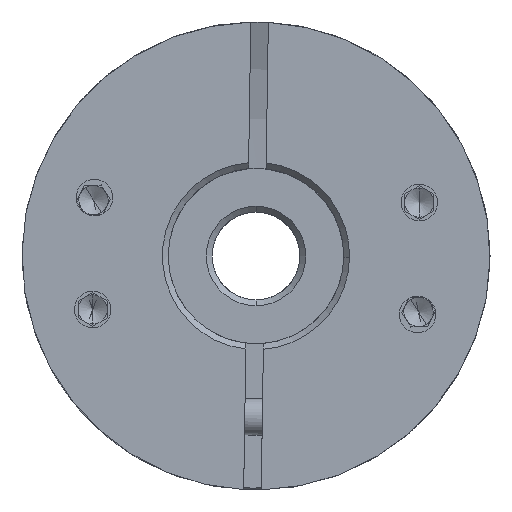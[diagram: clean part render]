
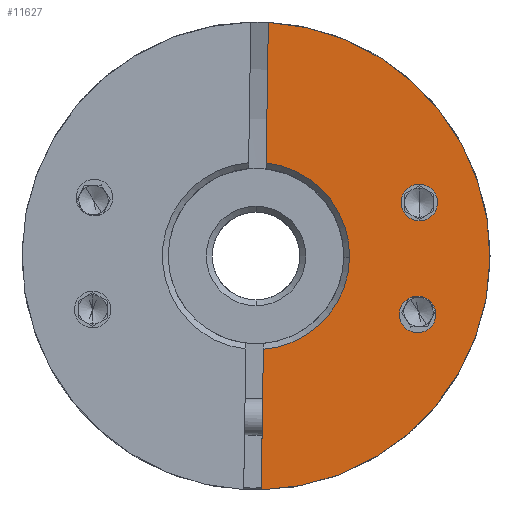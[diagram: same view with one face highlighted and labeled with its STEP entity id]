
A CAD part, front view. The second image highlights one B-rep face of the part: STEP entity #11627.
In plain terms, the highlighted planar face has unit normal (0, -1, 0).
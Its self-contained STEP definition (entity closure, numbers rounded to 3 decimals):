
#174 = CIRCLE ( 'NONE', #5313, 1.25 ) ;
#506 = DIRECTION ( 'NONE',  ( 0., 1., 0. ) ) ;
#715 = CARTESIAN_POINT ( 'NONE',  ( -46.762, -19.411, 3.637 ) ) ;
#1289 = ORIENTED_EDGE ( 'NONE', *, *, #15607, .T. ) ;
#1591 = LINE ( 'NONE', #18787, #4222 ) ;
#1651 = CARTESIAN_POINT ( 'NONE',  ( -49.378, -19.411, -3.975 ) ) ;
#1688 = FACE_OUTER_BOUND ( 'NONE', #16285, .T. ) ;
#2519 = DIRECTION ( 'NONE',  ( 1., 0., -0.015 ) ) ;
#2529 = ORIENTED_EDGE ( 'NONE', *, *, #21312, .T. ) ;
#2621 = CARTESIAN_POINT ( 'NONE',  ( -58.487, -19.411, 5.99 ) ) ;
#2951 = AXIS2_PLACEMENT_3D ( 'NONE', #18900, #506, #13579 ) ;
#2986 = DIRECTION ( 'NONE',  ( 0., -1., 0. ) ) ;
#3298 = CARTESIAN_POINT ( 'NONE',  ( -58.482, -19.411, 6.362 ) ) ;
#3483 = AXIS2_PLACEMENT_3D ( 'NONE', #10542, #23611, #15876 ) ;
#4081 = DIRECTION ( 'NONE',  ( 0., 1., 0. ) ) ;
#4208 = AXIS2_PLACEMENT_3D ( 'NONE', #20532, #14997, #18753 ) ;
#4222 = VECTOR ( 'NONE', #11254, 1000. ) ;
#4701 = PLANE ( 'NONE',  #21241 ) ;
#5313 = AXIS2_PLACEMENT_3D ( 'NONE', #19261, #21139, #2519 ) ;
#5357 = CIRCLE ( 'NONE', #9848, 16. ) ;
#5549 = CARTESIAN_POINT ( 'NONE',  ( -59.178, -19.411, 0. ) ) ;
#5770 = EDGE_CURVE ( 'NONE', #12489, #10407, #9356, .T. ) ;
#5813 = LINE ( 'NONE', #2621, #8154 ) ;
#5896 = EDGE_CURVE ( 'NONE', #15227, #10904, #5813, .T. ) ;
#6051 = DIRECTION ( 'NONE',  ( 0., 1., 0. ) ) ;
#6125 = EDGE_LOOP ( 'NONE', ( #10106, #1289 ) ) ;
#6263 = EDGE_CURVE ( 'NONE', #10626, #23749, #6673, .T. ) ;
#6279 = CIRCLE ( 'NONE', #4208, 1.25 ) ;
#6431 = VERTEX_POINT ( 'NONE', #10293 ) ;
#6673 = CIRCLE ( 'NONE', #15349, 6.4 ) ;
#7965 = CARTESIAN_POINT ( 'NONE',  ( -52.779, -19.411, -0.097 ) ) ;
#8014 = ORIENTED_EDGE ( 'NONE', *, *, #12385, .T. ) ;
#8154 = VECTOR ( 'NONE', #8322, 1000. ) ;
#8322 = DIRECTION ( 'NONE',  ( -0.015, 0., -1. ) ) ;
#8690 = VERTEX_POINT ( 'NONE', #21345 ) ;
#9211 = ORIENTED_EDGE ( 'NONE', *, *, #6263, .T. ) ;
#9356 = CIRCLE ( 'NONE', #2951, 1.25 ) ;
#9698 = CARTESIAN_POINT ( 'NONE',  ( -59.178, -19.411, 0. ) ) ;
#9848 = AXIS2_PLACEMENT_3D ( 'NONE', #13909, #17921, #17995 ) ;
#10020 = EDGE_LOOP ( 'NONE', ( #22566, #20157 ) ) ;
#10060 = VERTEX_POINT ( 'NONE', #715 ) ;
#10106 = ORIENTED_EDGE ( 'NONE', *, *, #5770, .T. ) ;
#10293 = CARTESIAN_POINT ( 'NONE',  ( -58.821, -19.411, -15.996 ) ) ;
#10327 = CARTESIAN_POINT ( 'NONE',  ( -58.336, -19.411, 15.978 ) ) ;
#10407 = VERTEX_POINT ( 'NONE', #17768 ) ;
#10542 = CARTESIAN_POINT ( 'NONE',  ( -59.178, -19.411, 0. ) ) ;
#10626 = VERTEX_POINT ( 'NONE', #7965 ) ;
#10904 = VERTEX_POINT ( 'NONE', #3298 ) ;
#11191 = DIRECTION ( 'NONE',  ( 1., 0., -0.015 ) ) ;
#11254 = DIRECTION ( 'NONE',  ( -0.015, 0., -1. ) ) ;
#11574 = VERTEX_POINT ( 'NONE', #19713 ) ;
#11627 = ADVANCED_FACE ( 'NONE', ( #1688, #17793, #16915 ), #4701, .T. ) ;
#11761 = CIRCLE ( 'NONE', #18212, 1.25 ) ;
#11816 = ORIENTED_EDGE ( 'NONE', *, *, #15736, .T. ) ;
#12202 = CARTESIAN_POINT ( 'NONE',  ( -59.178, -19.411, 0. ) ) ;
#12385 = EDGE_CURVE ( 'NONE', #10904, #10626, #19768, .T. ) ;
#12489 = VERTEX_POINT ( 'NONE', #1651 ) ;
#12935 = EDGE_CURVE ( 'NONE', #11574, #10060, #174, .T. ) ;
#13235 = DIRECTION ( 'NONE',  ( 0., 1., 0. ) ) ;
#13579 = DIRECTION ( 'NONE',  ( 1., 0., -0.015 ) ) ;
#13662 = EDGE_CURVE ( 'NONE', #23749, #6431, #1591, .T. ) ;
#13909 = CARTESIAN_POINT ( 'NONE',  ( -59.178, -19.411, 0. ) ) ;
#14276 = DIRECTION ( 'NONE',  ( 1., 0., -0.015 ) ) ;
#14997 = DIRECTION ( 'NONE',  ( 0., 1., 0. ) ) ;
#15141 = ORIENTED_EDGE ( 'NONE', *, *, #5896, .T. ) ;
#15227 = VERTEX_POINT ( 'NONE', #10327 ) ;
#15349 = AXIS2_PLACEMENT_3D ( 'NONE', #9698, #4081, #20903 ) ;
#15607 = EDGE_CURVE ( 'NONE', #10407, #12489, #11761, .T. ) ;
#15683 = CARTESIAN_POINT ( 'NONE',  ( -58.675, -19.411, -6.38 ) ) ;
#15736 = EDGE_CURVE ( 'NONE', #6431, #8690, #21126, .T. ) ;
#15876 = DIRECTION ( 'NONE',  ( 1., 0., -0.015 ) ) ;
#16285 = EDGE_LOOP ( 'NONE', ( #15141, #8014, #9211, #22946, #11816, #2529 ) ) ;
#16915 = FACE_BOUND ( 'NONE', #6125, .T. ) ;
#17362 = DIRECTION ( 'NONE',  ( 1., 0., -0.015 ) ) ;
#17768 = CARTESIAN_POINT ( 'NONE',  ( -46.878, -19.411, -4.013 ) ) ;
#17793 = FACE_BOUND ( 'NONE', #10020, .T. ) ;
#17921 = DIRECTION ( 'NONE',  ( 0., -1., 0. ) ) ;
#17995 = DIRECTION ( 'NONE',  ( 1., 0., -0.015 ) ) ;
#18212 = AXIS2_PLACEMENT_3D ( 'NONE', #21271, #6051, #17362 ) ;
#18753 = DIRECTION ( 'NONE',  ( 1., 0., -0.015 ) ) ;
#18787 = CARTESIAN_POINT ( 'NONE',  ( -58.487, -19.411, 5.99 ) ) ;
#18900 = CARTESIAN_POINT ( 'NONE',  ( -48.128, -19.411, -3.994 ) ) ;
#19261 = CARTESIAN_POINT ( 'NONE',  ( -48.012, -19.411, 3.656 ) ) ;
#19684 = AXIS2_PLACEMENT_3D ( 'NONE', #5549, #13235, #11191 ) ;
#19713 = CARTESIAN_POINT ( 'NONE',  ( -49.261, -19.411, 3.675 ) ) ;
#19768 = CIRCLE ( 'NONE', #19684, 6.4 ) ;
#20157 = ORIENTED_EDGE ( 'NONE', *, *, #20186, .T. ) ;
#20186 = EDGE_CURVE ( 'NONE', #10060, #11574, #6279, .T. ) ;
#20532 = CARTESIAN_POINT ( 'NONE',  ( -48.012, -19.411, 3.656 ) ) ;
#20903 = DIRECTION ( 'NONE',  ( 1., 0., -0.015 ) ) ;
#21126 = CIRCLE ( 'NONE', #3483, 16. ) ;
#21139 = DIRECTION ( 'NONE',  ( 0., 1., 0. ) ) ;
#21241 = AXIS2_PLACEMENT_3D ( 'NONE', #12202, #2986, #14276 ) ;
#21271 = CARTESIAN_POINT ( 'NONE',  ( -48.128, -19.411, -3.994 ) ) ;
#21312 = EDGE_CURVE ( 'NONE', #8690, #15227, #5357, .T. ) ;
#21345 = CARTESIAN_POINT ( 'NONE',  ( -43.18, -19.411, -0.243 ) ) ;
#22566 = ORIENTED_EDGE ( 'NONE', *, *, #12935, .T. ) ;
#22946 = ORIENTED_EDGE ( 'NONE', *, *, #13662, .T. ) ;
#23611 = DIRECTION ( 'NONE',  ( 0., -1., 0. ) ) ;
#23749 = VERTEX_POINT ( 'NONE', #15683 ) ;
